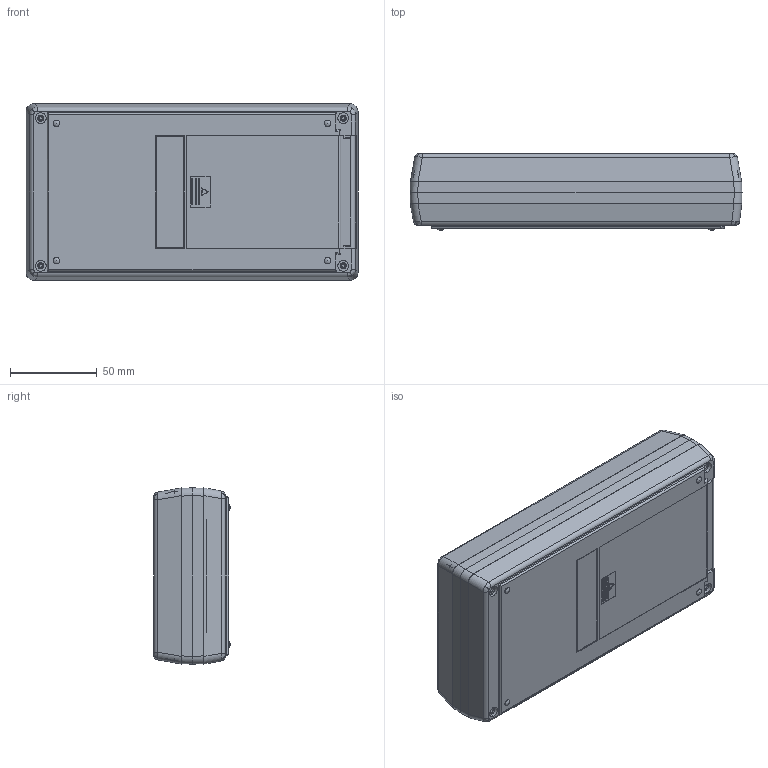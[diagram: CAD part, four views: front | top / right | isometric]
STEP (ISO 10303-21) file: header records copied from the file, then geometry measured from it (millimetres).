
FILE_DESCRIPTION (( 'STEP AP214' ), '1' );
FILE_NAME ('101-41-6A-E-R.STEP', '2019-12-01T01:27:26', ( 'Rudy' ), ( '' ), 'SwSTEP 2.0', 'SolidWorks 2014', '' );
FILE_SCHEMA (( 'AUTOMOTIVE_DESIGN' ));
Length unit declared in the file: millimetre
Products named in the file (5): 6AAdoor; 100-06 EXPANDER; 100-04-LCD Top; 100-01 BOT-6AA; 101-41-6A-E-R
Assembly tree (4 placements, depth 2):
  101-41-6A-E-R
    100-01 BOT-6AA
    100-04-LCD Top
    100-06 EXPANDER
    6AAdoor
Bounding box: 191 x 44 x 101.4 mm (x, y, z)
Volume: 143634 mm3; surface area: 153582.7 mm2
Topology: 4 solids, 4 shells, 1167 faces, 3173 edges, 2009 vertices
Faces by surface type: plane 777, cylinder 288, bspline 44, cone 42, torus 12, sphere 4
Entity records: 37786 total; most frequent: CARTESIAN_POINT 8961, ORIENTED_EDGE 6268, DIRECTION 5522, EDGE_CURVE 3134, LINE 2374, VECTOR 2374, VERTEX_POINT 2001, AXIS2_PLACEMENT_3D 1574
